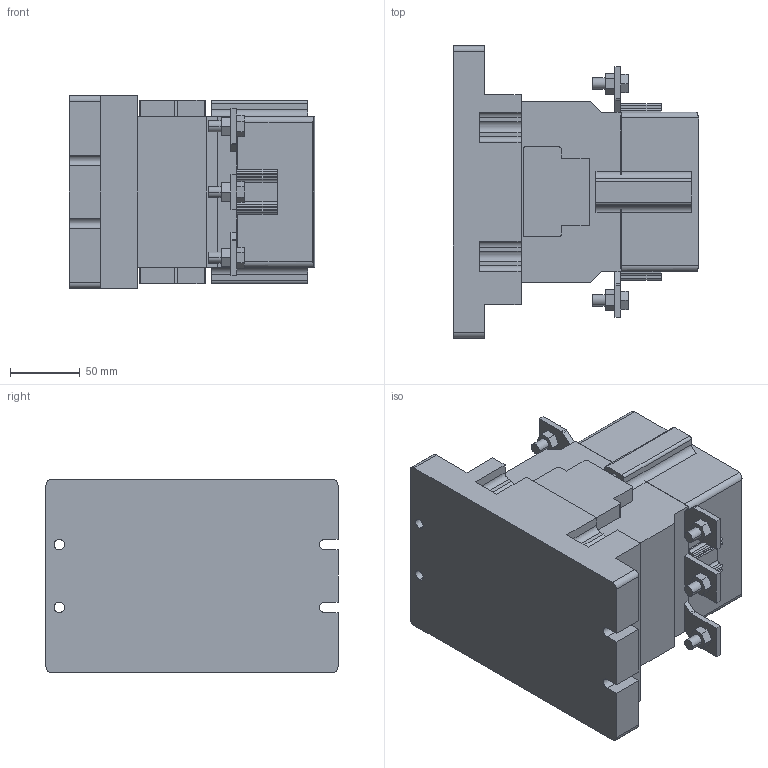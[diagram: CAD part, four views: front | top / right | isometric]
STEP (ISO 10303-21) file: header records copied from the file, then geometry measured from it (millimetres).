
FILE_DESCRIPTION( ( '' ), '1' );
FILE_NAME( 'E:/D&C電子外形図_3D/step/distribution/new_sc_neo_sc/mag/SC-N8.stp', '2013-02-13T02:55:34', ( '' ), ( '' ), ' ', ' ', ' ' );
FILE_SCHEMA( ( 'automotive_design' ) );
Length unit declared in the file: millimetre
Products named in the file (20): 1; 2; 3; 4; 5; 6; 7; 8; 9; 10; 11; 12; 13; 14; 15; 16; 17; 18; 19; 20
Bounding box: 176 x 209 x 138 mm (x, y, z)
Volume: 2943569.5 mm3; surface area: 210984.3 mm2
Topology: 20 solids, 20 shells, 374 faces, 968 edges, 644 vertices
Faces by surface type: plane 258, cylinder 116
Entity records: 22993 total; most frequent: CARTESIAN_POINT 2042, STYLED_ITEM 2006, PRESENTATION_STYLE_ASSIGNMENT 2006, COLOUR_RGB 2006, DIRECTION 1980, ORIENTED_EDGE 1936, EDGE_CURVE 968, CURVE_STYLE 968
